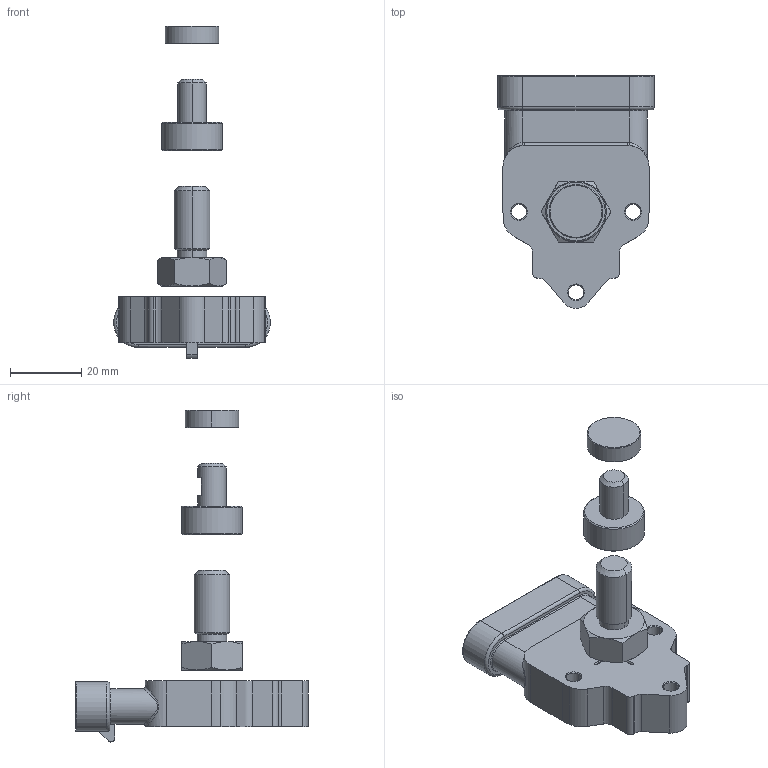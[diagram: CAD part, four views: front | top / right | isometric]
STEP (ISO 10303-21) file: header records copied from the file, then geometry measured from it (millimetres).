
FILE_DESCRIPTION (( 'STEP AP203' ), '1' );
FILE_NAME ('GRN 6P AMP.STEP', '2016-01-28T17:54:03', ( '' ), ( '' ), 'SwSTEP 2.0', 'SolidWorks 2015', '' );
FILE_SCHEMA (( 'CONFIG_CONTROL_DESIGN' ));
Length unit declared in the file: millimetre
Products named in the file (9): ALB247X; MGN019X; PKIT384X; PCUS003X; TAP048X; CTT154X; ALB248X; PKIT389X; GRN 6P AMP
Assembly tree (15 placements, depth 3):
  GRN 6P AMP
    PCUS003X
    CTT154X  x6
    PKIT384X
      ALB247X
      MGN019X
    TAP048X
    PKIT389X
      ALB248X
      MGN019X
    MGN019X
Bounding box: 44 x 65.35 x 93.2 mm (x, y, z)
Volume: 29134.1 mm3; surface area: 16732.5 mm2
Topology: 13 solids, 13 shells, 460 faces, 1123 edges, 718 vertices
Faces by surface type: plane 238, cylinder 108, bspline 53, cone 49, torus 12
Entity records: 15910 total; most frequent: CARTESIAN_POINT 5590, ORIENTED_EDGE 1966, DIRECTION 1815, EDGE_CURVE 983, VERTEX_POINT 634, AXIS2_PLACEMENT_3D 621, LINE 573, VECTOR 573
